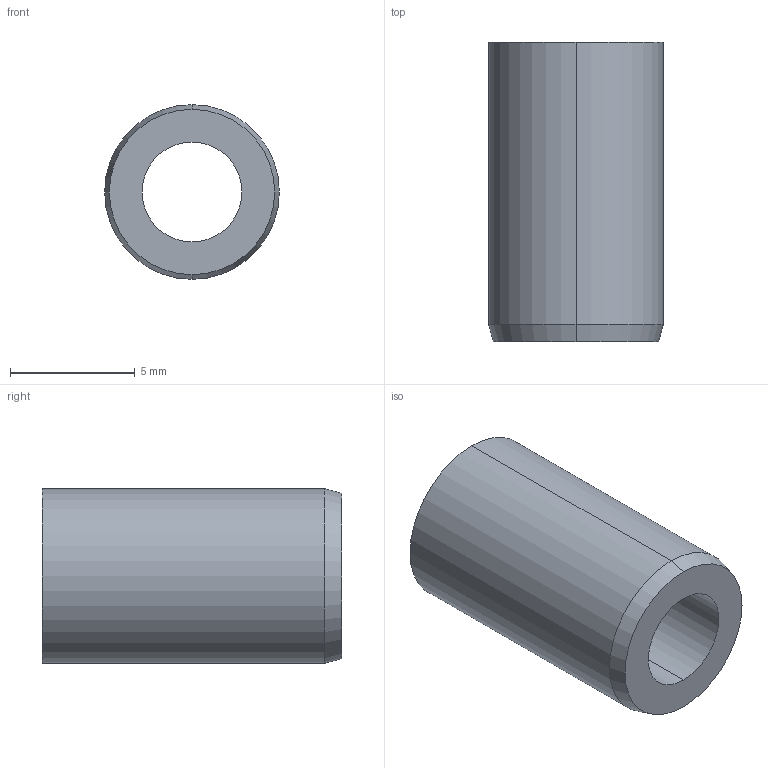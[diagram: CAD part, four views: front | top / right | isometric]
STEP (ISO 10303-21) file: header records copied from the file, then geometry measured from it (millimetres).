
FILE_DESCRIPTION (( 'STEP AP214' ), '1' );
FILE_NAME ('179-B4-12-A.step', '2024-10-17T05:50:32', ( '' ), ( '' ), 'SwSTEP 2.0', 'SolidWorks 2022', '' );
FILE_SCHEMA (( 'AUTOMOTIVE_DESIGN' ));
Length unit declared in the file: millimetre
Products named in the file (1): 179-B4-12-A
Bounding box: 7 x 12 x 7 mm (x, y, z)
Volume: 309.5 mm3; surface area: 461.6 mm2
Topology: 1 solids, 1 shells, 10 faces, 20 edges, 12 vertices
Faces by surface type: cylinder 4, cone 2, torus 2, plane 2
Entity records: 414 total; most frequent: DIRECTION 56, CARTESIAN_POINT 43, ORIENTED_EDGE 40, AXIS2_PLACEMENT_3D 25, EDGE_CURVE 20, CIRCLE 14, UNCERTAINTY_MEASURE_WITH_UNIT 13, MECHANICAL_DESIGN_GEOMETRIC_PRESENTATION_REPRESENTATION 12
